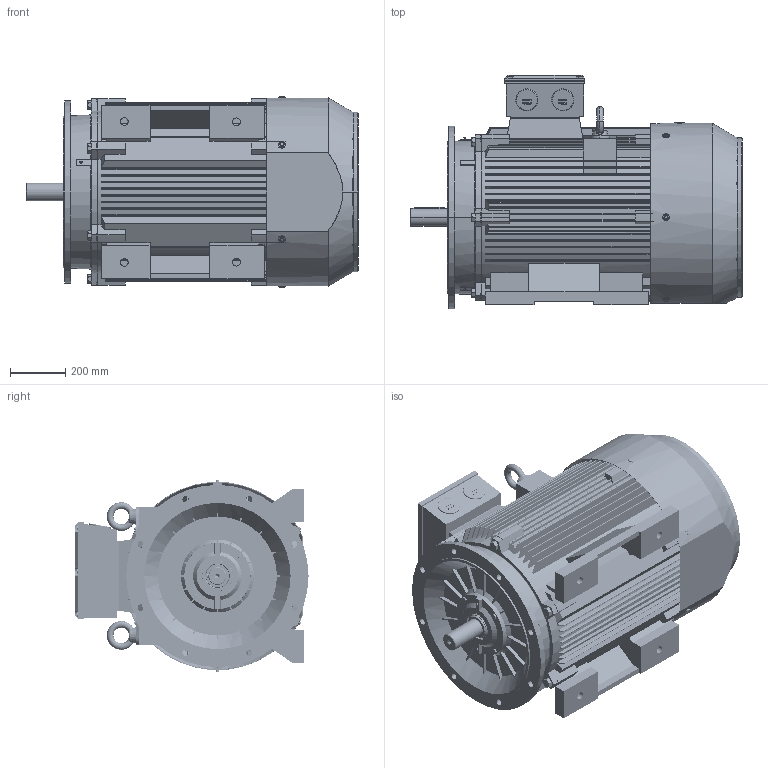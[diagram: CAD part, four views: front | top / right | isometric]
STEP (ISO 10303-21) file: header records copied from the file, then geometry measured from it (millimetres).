
FILE_DESCRIPTION (( 'STEP AP214' ), '1' );
FILE_NAME ('BCT4110.31A235.11.step', '2020-04-23T14:00:58', ( '' ), ( '' ), 'SwSTEP 2.0', 'SolidWorks 2019', '' );
FILE_SCHEMA (( 'AUTOMOTIVE_DESIGN' ));
Length unit declared in the file: millimetre
Products named in the file (1): BCT4110.31A235.11
Bounding box: 1201.99 x 844 x 694.6 mm (x, y, z)
Volume: 60044650.3 mm3; surface area: 11359582.9 mm2
Topology: 44 solids, 44 shells, 7866 faces, 22296 edges, 14674 vertices
Faces by surface type: plane 4016, cylinder 3065, cone 438, torus 234, bspline 109, sphere 4
Entity records: 288095 total; most frequent: CARTESIAN_POINT 78794, ORIENTED_EDGE 44572, DIRECTION 42803, EDGE_CURVE 22286, AXIS2_PLACEMENT_3D 14757, VERTEX_POINT 14672, LINE 13289, VECTOR 13289
